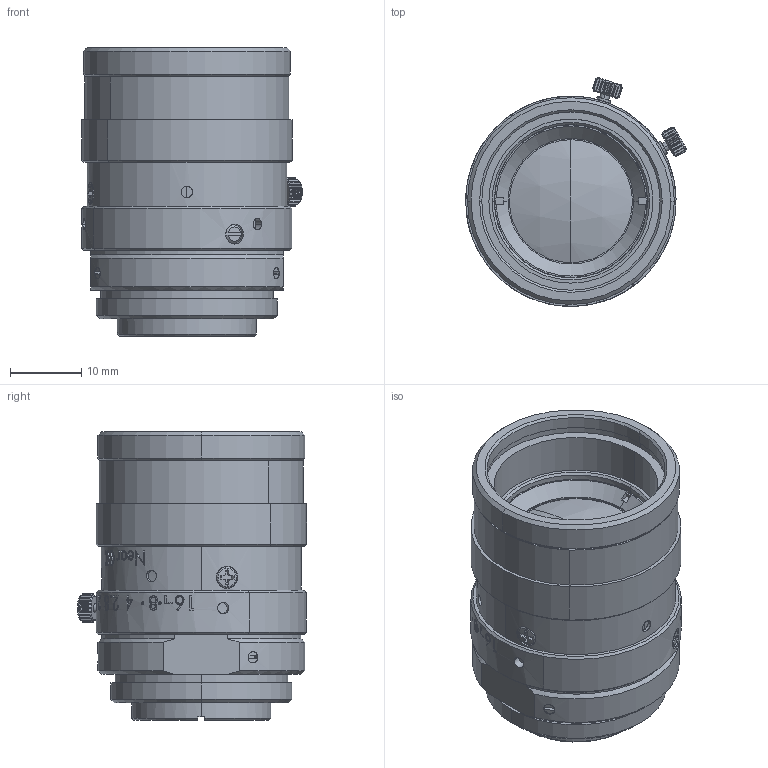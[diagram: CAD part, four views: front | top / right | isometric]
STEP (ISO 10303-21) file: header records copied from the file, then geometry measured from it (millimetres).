
FILE_DESCRIPTION (( 'STEP AP203' ), '1' );
FILE_NAME ('C-ML-M2516UR_A23900A0100101A-001.STEP', '2020-03-10T02:25:21', ( '' ), ( '' ), 'SwSTEP 2.0', 'SolidWorks 2017', '' );
FILE_SCHEMA (( 'CONFIG_CONTROL_DESIGN' ));
Length unit declared in the file: millimetre
Products named in the file (1): C-ML-M2516UR_A23900A0100101A-001
Bounding box: 30.93 x 32.11 x 40.47 mm (x, y, z)
Volume: 19749.9 mm3; surface area: 7551.6 mm2
Topology: 1 solids, 2 shells, 947 faces, 2549 edges, 1686 vertices
Faces by surface type: cylinder 325, plane 316, bspline 230, cone 62, sphere 8, torus 6
Entity records: 51443 total; most frequent: CARTESIAN_POINT 30374, ORIENTED_EDGE 5098, DIRECTION 3216, EDGE_CURVE 2549, VERTEX_POINT 1686, B_SPLINE_CURVE_WITH_KNOTS 1293, AXIS2_PLACEMENT_3D 1246, EDGE_LOOP 1029
